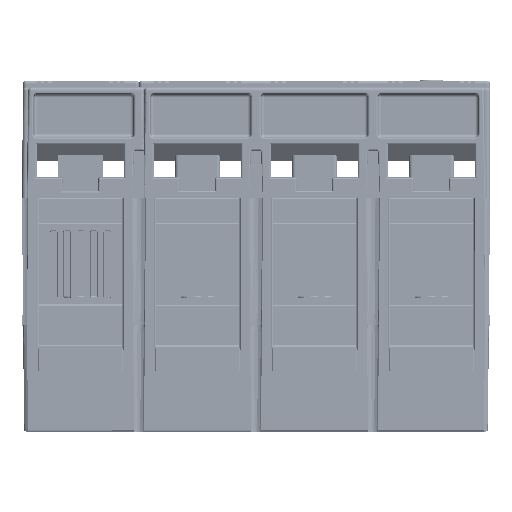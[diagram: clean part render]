
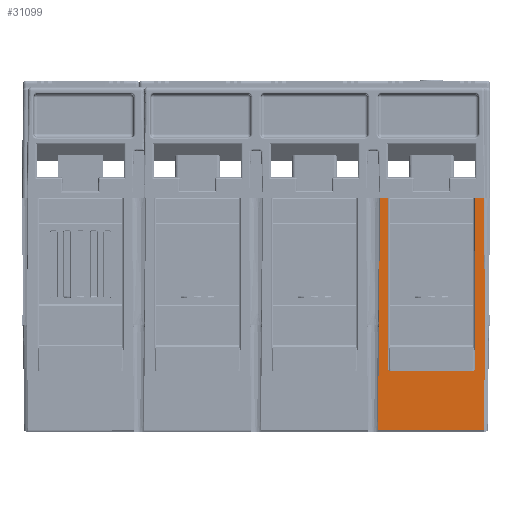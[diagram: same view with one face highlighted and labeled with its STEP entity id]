
A CAD part, front view. The second image highlights one B-rep face of the part: STEP entity #31099.
In plain terms, the highlighted planar face has unit normal (0, -1, -0.009).
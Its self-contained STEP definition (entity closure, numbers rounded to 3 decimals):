
#26933 = LINE ( 'NONE', #26935, #112593 ) ;
#26935 = CARTESIAN_POINT ( 'NONE',  ( -3.197, -145.42, 17.501 ) ) ;
#26937 = DIRECTION ( 'NONE',  ( -0.009, 0.009, -1. ) ) ;
#26953 = LINE ( 'NONE', #27034, #112518 ) ;
#27034 = CARTESIAN_POINT ( 'NONE',  ( 27.917, -144.813, -52.004 ) ) ;
#27038 = DIRECTION ( 'NONE',  ( 0.009, -0.009, 1. ) ) ;
#27589 = EDGE_CURVE ( 'NONE', #303886, #302076, #26933, .T. ) ;
#27613 = EDGE_CURVE ( 'NONE', #303898, #216478, #26953, .T. ) ;
#29874 = EDGE_CURVE ( 'NONE', #206672, #299651, #146920, .T. ) ;
#29880 = EDGE_CURVE ( 'NONE', #298962, #300034, #129042, .T. ) ;
#29887 = EDGE_CURVE ( 'NONE', #300034, #303311, #147357, .T. ) ;
#29926 = EDGE_CURVE ( 'NONE', #303311, #303519, #129073, .T. ) ;
#31099 = ADVANCED_FACE ( 'NONE', ( #168009 ), #167898, .T. ) ;
#95316 = LINE ( 'NONE', #95338, #172409 ) ;
#95338 = CARTESIAN_POINT ( 'NONE',  ( 28.192, -145.088, -20.499 ) ) ;
#95346 = DIRECTION ( 'NONE',  ( -0.009, -0.009, 1. ) ) ;
#100394 = CARTESIAN_POINT ( 'NONE',  ( 28.192, -145.088, -20.499 ) ) ;
#112518 = VECTOR ( 'NONE', #27038, 1000. ) ;
#112593 = VECTOR ( 'NONE', #26937, 1000. ) ;
#119432 = CARTESIAN_POINT ( 'NONE',  ( 25.192, -144.974, -33.499 ) ) ;
#119754 = CARTESIAN_POINT ( 'NONE',  ( 25.192, -145.42, 17.501 ) ) ;
#122287 = CARTESIAN_POINT ( 'NONE',  ( 24.192, -144.966, -34.499 ) ) ;
#123258 = CARTESIAN_POINT ( 'NONE',  ( -0.808, -145.42, 17.501 ) ) ;
#124672 = CARTESIAN_POINT ( 'NONE',  ( -3.803, -144.813, -52.004 ) ) ;
#125684 = CARTESIAN_POINT ( 'NONE',  ( 0.192, -144.966, -34.499 ) ) ;
#125810 = CARTESIAN_POINT ( 'NONE',  ( -0.808, -144.974, -33.499 ) ) ;
#125986 = CARTESIAN_POINT ( 'NONE',  ( -3.197, -145.42, 17.501 ) ) ;
#126001 = CARTESIAN_POINT ( 'NONE',  ( 27.917, -144.813, -52.004 ) ) ;
#129042 = B_SPLINE_CURVE_WITH_KNOTS ( 'NONE', 3,
 ( #147070, #147047, #147043, #147075, #147080, #147084, #147087, #147091, #147096, #147101, #147105, #147109, #147113, #147116, #147122, #147128, #147132, #147136 ),
 .UNSPECIFIED., .F., .F.,
 ( 4, 1, 1, 2, 2, 2, 1, 1, 2, 2, 4 ),
 ( 0., 0.125, 0.187, 0.219, 0.25, 0.5, 0.625, 0.687, 0.719, 0.75, 1. ),
 .UNSPECIFIED. ) ;
#129073 = B_SPLINE_CURVE_WITH_KNOTS ( 'NONE', 3,
 ( #148140, #148065, #148115, #148150, #148154, #148159, #148163, #148169, #148174, #148177, #148183, #148189, #148195, #148199, #148205, #148209, #148213, #148218 ),
 .UNSPECIFIED., .F., .F.,
 ( 4, 1, 1, 2, 2, 2, 1, 1, 2, 2, 4 ),
 ( 0., 0.125, 0.187, 0.219, 0.25, 0.5, 0.625, 0.688, 0.719, 0.75, 1. ),
 .UNSPECIFIED. ) ;
#132835 = EDGE_LOOP ( 'NONE', ( #202167, #202170, #202174, #202177, #202179, #202182, #202185, #202188, #202191, #202193, #202196 ) ) ;
#137371 = AXIS2_PLACEMENT_3D ( 'NONE', #168091, #168094, #168098 ) ;
#142845 = CARTESIAN_POINT ( 'NONE',  ( 27.861, -145.42, 17.501 ) ) ;
#146895 = CARTESIAN_POINT ( 'NONE',  ( -75.308, -145.42, 17.501 ) ) ;
#146920 = LINE ( 'NONE', #146895, #169944 ) ;
#146938 = DIRECTION ( 'NONE',  ( -1., 0., 0. ) ) ;
#147043 = CARTESIAN_POINT ( 'NONE',  ( 25.183, -144.973, -33.657 ) ) ;
#147047 = CARTESIAN_POINT ( 'NONE',  ( 25.192, -144.974, -33.563 ) ) ;
#147070 = CARTESIAN_POINT ( 'NONE',  ( 25.192, -144.974, -33.499 ) ) ;
#147075 = CARTESIAN_POINT ( 'NONE',  ( 25.158, -144.972, -33.763 ) ) ;
#147080 = CARTESIAN_POINT ( 'NONE',  ( 25.144, -144.972, -33.808 ) ) ;
#147084 = CARTESIAN_POINT ( 'NONE',  ( 25.133, -144.972, -33.838 ) ) ;
#147087 = CARTESIAN_POINT ( 'NONE',  ( 25.128, -144.971, -33.851 ) ) ;
#147091 = CARTESIAN_POINT ( 'NONE',  ( 25.071, -144.97, -33.996 ) ) ;
#147096 = CARTESIAN_POINT ( 'NONE',  ( 24.997, -144.969, -34.109 ) ) ;
#147101 = CARTESIAN_POINT ( 'NONE',  ( 24.851, -144.968, -34.255 ) ) ;
#147105 = CARTESIAN_POINT ( 'NONE',  ( 24.772, -144.967, -34.32 ) ) ;
#147109 = CARTESIAN_POINT ( 'NONE',  ( 24.67, -144.967, -34.379 ) ) ;
#147113 = CARTESIAN_POINT ( 'NONE',  ( 24.624, -144.967, -34.402 ) ) ;
#147116 = CARTESIAN_POINT ( 'NONE',  ( 24.592, -144.966, -34.416 ) ) ;
#147122 = CARTESIAN_POINT ( 'NONE',  ( 24.575, -144.966, -34.423 ) ) ;
#147128 = CARTESIAN_POINT ( 'NONE',  ( 24.443, -144.966, -34.476 ) ) ;
#147132 = CARTESIAN_POINT ( 'NONE',  ( 24.32, -144.966, -34.499 ) ) ;
#147136 = CARTESIAN_POINT ( 'NONE',  ( 24.192, -144.966, -34.499 ) ) ;
#147357 = LINE ( 'NONE', #147452, #170766 ) ;
#147452 = CARTESIAN_POINT ( 'NONE',  ( -75.308, -144.966, -34.499 ) ) ;
#147467 = DIRECTION ( 'NONE',  ( -1., 0., 0. ) ) ;
#148065 = CARTESIAN_POINT ( 'NONE',  ( 0.129, -144.966, -34.499 ) ) ;
#148115 = CARTESIAN_POINT ( 'NONE',  ( 0.035, -144.966, -34.49 ) ) ;
#148140 = CARTESIAN_POINT ( 'NONE',  ( 0.192, -144.966, -34.499 ) ) ;
#148150 = CARTESIAN_POINT ( 'NONE',  ( -0.071, -144.966, -34.465 ) ) ;
#148154 = CARTESIAN_POINT ( 'NONE',  ( -0.116, -144.966, -34.451 ) ) ;
#148159 = CARTESIAN_POINT ( 'NONE',  ( -0.146, -144.966, -34.44 ) ) ;
#148163 = CARTESIAN_POINT ( 'NONE',  ( -0.16, -144.966, -34.436 ) ) ;
#148169 = CARTESIAN_POINT ( 'NONE',  ( -0.304, -144.967, -34.379 ) ) ;
#148174 = CARTESIAN_POINT ( 'NONE',  ( -0.417, -144.967, -34.304 ) ) ;
#148177 = CARTESIAN_POINT ( 'NONE',  ( -0.564, -144.969, -34.158 ) ) ;
#148183 = CARTESIAN_POINT ( 'NONE',  ( -0.628, -144.969, -34.079 ) ) ;
#148189 = CARTESIAN_POINT ( 'NONE',  ( -0.688, -144.97, -33.977 ) ) ;
#148195 = CARTESIAN_POINT ( 'NONE',  ( -0.71, -144.971, -33.931 ) ) ;
#148199 = CARTESIAN_POINT ( 'NONE',  ( -0.724, -144.971, -33.899 ) ) ;
#148205 = CARTESIAN_POINT ( 'NONE',  ( -0.732, -144.971, -33.882 ) ) ;
#148209 = CARTESIAN_POINT ( 'NONE',  ( -0.784, -144.972, -33.75 ) ) ;
#148213 = CARTESIAN_POINT ( 'NONE',  ( -0.808, -144.973, -33.627 ) ) ;
#148218 = CARTESIAN_POINT ( 'NONE',  ( -0.808, -144.974, -33.499 ) ) ;
#167898 = PLANE ( 'NONE',  #137371 ) ;
#168009 = FACE_OUTER_BOUND ( 'NONE', #132835, .T. ) ;
#168091 = CARTESIAN_POINT ( 'NONE',  ( -75.308, -145.42, 17.501 ) ) ;
#168094 = DIRECTION ( 'NONE',  ( 0., -1., -0.009 ) ) ;
#168098 = DIRECTION ( 'NONE',  ( 0., 0.009, -1. ) ) ;
#169944 = VECTOR ( 'NONE', #146938, 1000. ) ;
#170766 = VECTOR ( 'NONE', #147467, 1000. ) ;
#172409 = VECTOR ( 'NONE', #95346, 1000. ) ;
#198271 = EDGE_CURVE ( 'NONE', #216478, #206672, #95316, .T. ) ;
#201953 = EDGE_CURVE ( 'NONE', #298962, #299651, #206128, .T. ) ;
#201958 = EDGE_CURVE ( 'NONE', #303898, #302076, #206221, .T. ) ;
#201961 = EDGE_CURVE ( 'NONE', #301100, #303886, #206324, .T. ) ;
#201966 = EDGE_CURVE ( 'NONE', #301100, #303519, #206416, .T. ) ;
#202167 = ORIENTED_EDGE ( 'NONE', *, *, #201966, .F. ) ;
#202170 = ORIENTED_EDGE ( 'NONE', *, *, #201961, .T. ) ;
#202174 = ORIENTED_EDGE ( 'NONE', *, *, #27589, .T. ) ;
#202177 = ORIENTED_EDGE ( 'NONE', *, *, #201958, .F. ) ;
#202179 = ORIENTED_EDGE ( 'NONE', *, *, #27613, .T. ) ;
#202182 = ORIENTED_EDGE ( 'NONE', *, *, #198271, .T. ) ;
#202185 = ORIENTED_EDGE ( 'NONE', *, *, #29874, .T. ) ;
#202188 = ORIENTED_EDGE ( 'NONE', *, *, #201953, .F. ) ;
#202191 = ORIENTED_EDGE ( 'NONE', *, *, #29880, .T. ) ;
#202193 = ORIENTED_EDGE ( 'NONE', *, *, #29887, .T. ) ;
#202196 = ORIENTED_EDGE ( 'NONE', *, *, #29926, .T. ) ;
#205919 = CARTESIAN_POINT ( 'NONE',  ( 25.192, -144.974, -33.499 ) ) ;
#206128 = LINE ( 'NONE', #205919, #209445 ) ;
#206139 = DIRECTION ( 'NONE',  ( 0., -0.009, 1. ) ) ;
#206143 = CARTESIAN_POINT ( 'NONE',  ( -0.808, -145.42, 17.501 ) ) ;
#206221 = LINE ( 'NONE', #206226, #209471 ) ;
#206226 = CARTESIAN_POINT ( 'NONE',  ( -75.308, -144.813, -52.004 ) ) ;
#206231 = DIRECTION ( 'NONE',  ( -1., 0., 0. ) ) ;
#206324 = LINE ( 'NONE', #206326, #209490 ) ;
#206326 = CARTESIAN_POINT ( 'NONE',  ( -75.308, -145.42, 17.501 ) ) ;
#206330 = DIRECTION ( 'NONE',  ( -1., 0., 0. ) ) ;
#206416 = LINE ( 'NONE', #206143, #209512 ) ;
#206437 = DIRECTION ( 'NONE',  ( 0., 0.009, -1. ) ) ;
#206672 = VERTEX_POINT ( 'NONE', #142845 ) ;
#209445 = VECTOR ( 'NONE', #206139, 1000. ) ;
#209471 = VECTOR ( 'NONE', #206231, 1000. ) ;
#209490 = VECTOR ( 'NONE', #206330, 1000. ) ;
#209512 = VECTOR ( 'NONE', #206437, 1000. ) ;
#216478 = VERTEX_POINT ( 'NONE', #100394 ) ;
#298962 = VERTEX_POINT ( 'NONE', #119432 ) ;
#299651 = VERTEX_POINT ( 'NONE', #119754 ) ;
#300034 = VERTEX_POINT ( 'NONE', #122287 ) ;
#301100 = VERTEX_POINT ( 'NONE', #123258 ) ;
#302076 = VERTEX_POINT ( 'NONE', #124672 ) ;
#303311 = VERTEX_POINT ( 'NONE', #125684 ) ;
#303519 = VERTEX_POINT ( 'NONE', #125810 ) ;
#303886 = VERTEX_POINT ( 'NONE', #125986 ) ;
#303898 = VERTEX_POINT ( 'NONE', #126001 ) ;
